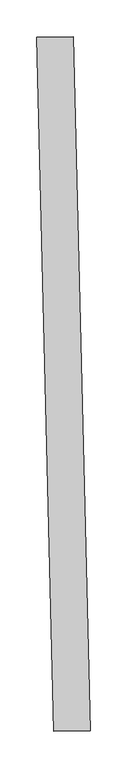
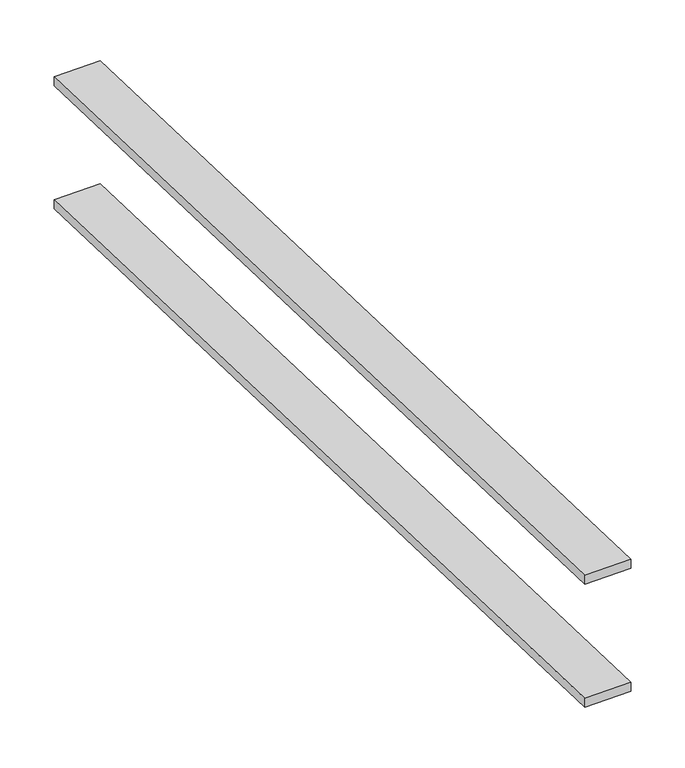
"""IFC4 building model written with IfcOpenShell, lengths in millimetres: railing geometry, Garde-corps 11 : Garde-corps 3."""

from ifc_helpers import new_model, si_unit, frame, origin, place, context, project, spatial, polyline, outline, extrude, source, transform, mapped, element, save


def railing_6fe1f829(model_context):
    return source(origin(), model_context, "Body", "SweptSolid", [
        extrude(outline(polyline([(26751.3757353, 5560.9689513), (26801.3601176, 5562.2185608), (26825.1026992, 4612.5152968), (26775.1183169, 4611.2656872), (26751.3757353, 5560.9689513)])), frame((0.0, 0.0, 3819.9587747), z_axis=(0.0, 0.0, 1.0), x_axis=(1.0, 0.0, 0.0)), (0.0, 0.0, 1.0), 10.0),
        extrude(outline(polyline([(26751.3757353, 5560.9689513), (26801.3601176, 5562.2185608), (26825.1026992, 4612.5152968), (26775.1183169, 4611.2656872), (26751.3757353, 5560.9689513)])), frame((0.0, 0.0, 3959.9587747), z_axis=(0.0, 0.0, 1.0), x_axis=(1.0, 0.0, 0.0)), (0.0, 0.0, 1.0), 10.0),
    ])


if __name__ == "__main__":
    model = new_model("IFC4")
    model_context = context("Model", 3, world=origin())
    ifc_project = project(units=[si_unit("LENGTHUNIT", "METRE", prefix="MILLI")], contexts=[model_context])
    site = spatial("IfcSite", under=ifc_project)
    building = spatial("IfcBuilding", under=site)
    placement = place(None, origin())
    railing_shape = railing_6fe1f829(model_context)
    element("IfcRailing", 1, ObjectType="Garde-corps 11 : Garde-corps 3", at=placement, inside=building, context=model_context, shape_type="MappedRepresentation", body=[
        mapped(railing_shape, transform((0.0, 0.0, 0.0), x_axis=(1.0, 0.0, 0.0), y_axis=(0.0, 1.0, 0.0), z_axis=(0.0, 0.0, 1.0))),
    ])
    save(model, "model.ifc")
